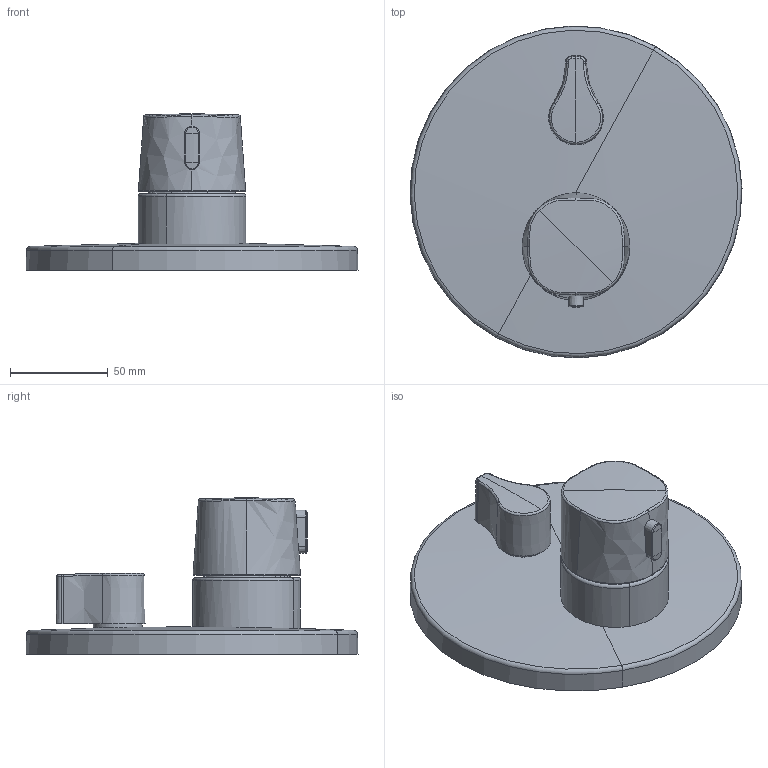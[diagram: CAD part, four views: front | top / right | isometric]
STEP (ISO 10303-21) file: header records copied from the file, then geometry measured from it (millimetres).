
FILE_DESCRIPTION (( 'STEP AP203' ), '1' );
FILE_NAME ('2088(2018)+81149552(2018).STEP', '2020-08-19T04:55:01', ( '' ), ( '' ), 'SwSTEP 2.0', 'SolidWorks 2016', '' );
FILE_SCHEMA (( 'CONFIG_CONTROL_DESIGN' ));
Length unit declared in the file: millimetre
Products named in the file (1): 2088(2018)+81149552(2018)
Bounding box: 169.98 x 169.98 x 80.04 mm (x, y, z)
Volume: 469535.9 mm3; surface area: 67926.8 mm2
Topology: 1 solids, 1 shells, 66 faces, 154 edges, 94 vertices
Faces by surface type: bspline 16, torus 14, plane 10, cylinder 9, cone 9, sphere 8
Entity records: 4344 total; most frequent: CARTESIAN_POINT 2848, ORIENTED_EDGE 308, DIRECTION 289, EDGE_CURVE 154, AXIS2_PLACEMENT_3D 131, VERTEX_POINT 94, CIRCLE 80, EDGE_LOOP 70
